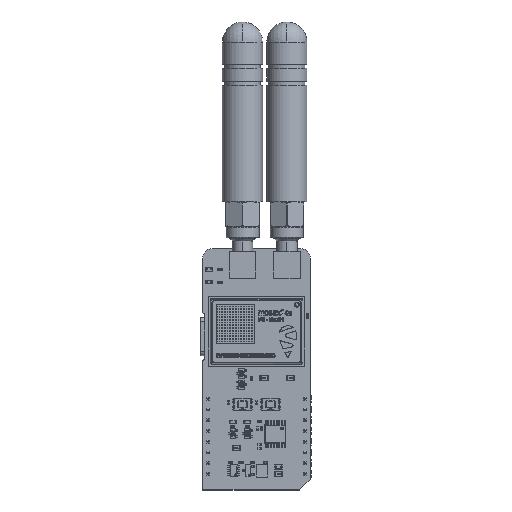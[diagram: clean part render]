
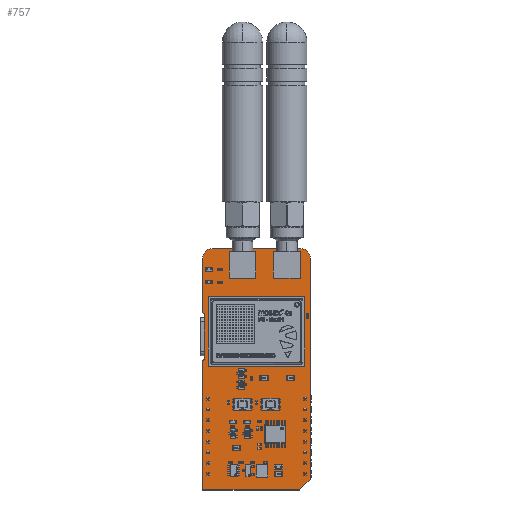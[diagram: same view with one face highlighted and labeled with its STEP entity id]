
A CAD part, top view. The second image highlights one B-rep face of the part: STEP entity #757.
In plain terms, the highlighted planar face has unit normal (0, 0, 1).
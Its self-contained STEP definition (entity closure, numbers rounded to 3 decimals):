
#328 = VERTEX_POINT('',#329);
#329 = CARTESIAN_POINT('',(-1.27,-3.81,1.65));
#335 = EDGE_CURVE('',#328,#336,#338,.T.);
#336 = VERTEX_POINT('',#337);
#337 = CARTESIAN_POINT('',(-1.27,26.797,1.65));
#338 = LINE('',#339,#340);
#339 = CARTESIAN_POINT('',(-1.27,-3.81,1.65));
#340 = VECTOR('',#341,1.);
#341 = DIRECTION('',(0.,1.,0.));
#366 = EDGE_CURVE('',#336,#367,#369,.T.);
#367 = VERTEX_POINT('',#368);
#368 = CARTESIAN_POINT('',(-1.092,26.975,1.65));
#369 = CIRCLE('',#370,0.178);
#370 = AXIS2_PLACEMENT_3D('',#371,#372,#373);
#371 = CARTESIAN_POINT('',(-1.092,26.797,1.65));
#372 = DIRECTION('',(0.,0.,-1.));
#373 = DIRECTION('',(-1.,-0.003,-0.));
#399 = EDGE_CURVE('',#367,#400,#402,.T.);
#400 = VERTEX_POINT('',#401);
#401 = CARTESIAN_POINT('',(-0.914,27.153,1.65));
#402 = CIRCLE('',#403,0.178);
#403 = AXIS2_PLACEMENT_3D('',#404,#405,#406);
#404 = CARTESIAN_POINT('',(-1.092,27.153,1.65));
#405 = DIRECTION('',(0.,0.,1.));
#406 = DIRECTION('',(-0.003,-1.,0.));
#432 = EDGE_CURVE('',#400,#433,#435,.T.);
#433 = VERTEX_POINT('',#434);
#434 = CARTESIAN_POINT('',(-0.914,37.846,1.65));
#435 = LINE('',#436,#437);
#436 = CARTESIAN_POINT('',(-0.914,27.153,1.65));
#437 = VECTOR('',#438,1.);
#438 = DIRECTION('',(0.,1.,0.));
#463 = EDGE_CURVE('',#433,#464,#466,.T.);
#464 = VERTEX_POINT('',#465);
#465 = CARTESIAN_POINT('',(-1.092,38.024,1.65));
#466 = CIRCLE('',#467,0.178);
#467 = AXIS2_PLACEMENT_3D('',#468,#469,#470);
#468 = CARTESIAN_POINT('',(-1.092,37.846,1.65));
#469 = DIRECTION('',(0.,0.,1.));
#470 = DIRECTION('',(1.,-0.003,0.));
#496 = EDGE_CURVE('',#464,#497,#499,.T.);
#497 = VERTEX_POINT('',#498);
#498 = CARTESIAN_POINT('',(-1.27,38.202,1.65));
#499 = CIRCLE('',#500,0.178);
#500 = AXIS2_PLACEMENT_3D('',#501,#502,#503);
#501 = CARTESIAN_POINT('',(-1.092,38.202,1.65));
#502 = DIRECTION('',(0.,0.,-1.));
#503 = DIRECTION('',(0.003,-1.,0.));
#529 = EDGE_CURVE('',#497,#530,#532,.T.);
#530 = VERTEX_POINT('',#531);
#531 = CARTESIAN_POINT('',(-1.27,51.054,1.65));
#532 = LINE('',#533,#534);
#533 = CARTESIAN_POINT('',(-1.27,38.202,1.65));
#534 = VECTOR('',#535,1.);
#535 = DIRECTION('',(0.,1.,0.));
#560 = EDGE_CURVE('',#530,#561,#563,.T.);
#561 = VERTEX_POINT('',#562);
#562 = CARTESIAN_POINT('',(1.016,53.34,1.65));
#563 = CIRCLE('',#564,2.288);
#564 = AXIS2_PLACEMENT_3D('',#565,#566,#567);
#565 = CARTESIAN_POINT('',(1.018,51.052,1.65));
#566 = DIRECTION('',(0.,0.,-1.));
#567 = DIRECTION('',(-1.,0.001,0.));
#593 = EDGE_CURVE('',#561,#594,#596,.T.);
#594 = VERTEX_POINT('',#595);
#595 = CARTESIAN_POINT('',(21.844,53.34,1.65));
#596 = LINE('',#597,#598);
#597 = CARTESIAN_POINT('',(1.016,53.34,1.65));
#598 = VECTOR('',#599,1.);
#599 = DIRECTION('',(1.,0.,0.));
#624 = EDGE_CURVE('',#594,#625,#627,.T.);
#625 = VERTEX_POINT('',#626);
#626 = CARTESIAN_POINT('',(24.13,51.054,1.65));
#627 = CIRCLE('',#628,2.288);
#628 = AXIS2_PLACEMENT_3D('',#629,#630,#631);
#629 = CARTESIAN_POINT('',(21.842,51.052,1.65));
#630 = DIRECTION('',(0.,0.,-1.));
#631 = DIRECTION('',(0.001,1.,0.));
#657 = EDGE_CURVE('',#625,#658,#660,.T.);
#658 = VERTEX_POINT('',#659);
#659 = CARTESIAN_POINT('',(24.13,-1.27,1.65));
#660 = LINE('',#661,#662);
#661 = CARTESIAN_POINT('',(24.13,51.054,1.65));
#662 = VECTOR('',#663,1.);
#663 = DIRECTION('',(0.,-1.,0.));
#688 = EDGE_CURVE('',#658,#689,#691,.T.);
#689 = VERTEX_POINT('',#690);
#690 = CARTESIAN_POINT('',(21.59,-3.81,1.65));
#691 = LINE('',#692,#693);
#692 = CARTESIAN_POINT('',(24.13,-1.27,1.65));
#693 = VECTOR('',#694,1.);
#694 = DIRECTION('',(-0.707,-0.707,0.));
#719 = EDGE_CURVE('',#689,#328,#720,.T.);
#720 = LINE('',#721,#722);
#721 = CARTESIAN_POINT('',(21.59,-3.81,1.65));
#722 = VECTOR('',#723,1.);
#723 = DIRECTION('',(-1.,0.,0.));
#757 = ADVANCED_FACE('',(#758),#773,.F.);
#758 = FACE_BOUND('',#759,.F.);
#759 = EDGE_LOOP('',(#760,#761,#762,#763,#764,#765,#766,#767,#768,#769,
    #770,#771,#772));
#760 = ORIENTED_EDGE('',*,*,#335,.T.);
#761 = ORIENTED_EDGE('',*,*,#366,.T.);
#762 = ORIENTED_EDGE('',*,*,#399,.T.);
#763 = ORIENTED_EDGE('',*,*,#432,.T.);
#764 = ORIENTED_EDGE('',*,*,#463,.T.);
#765 = ORIENTED_EDGE('',*,*,#496,.T.);
#766 = ORIENTED_EDGE('',*,*,#529,.T.);
#767 = ORIENTED_EDGE('',*,*,#560,.T.);
#768 = ORIENTED_EDGE('',*,*,#593,.T.);
#769 = ORIENTED_EDGE('',*,*,#624,.T.);
#770 = ORIENTED_EDGE('',*,*,#657,.T.);
#771 = ORIENTED_EDGE('',*,*,#688,.T.);
#772 = ORIENTED_EDGE('',*,*,#719,.T.);
#773 = PLANE('',#774);
#774 = AXIS2_PLACEMENT_3D('',#775,#776,#777);
#775 = CARTESIAN_POINT('',(11.299,24.688,1.65));
#776 = DIRECTION('',(-0.,-0.,-1.));
#777 = DIRECTION('',(-1.,0.,0.));
